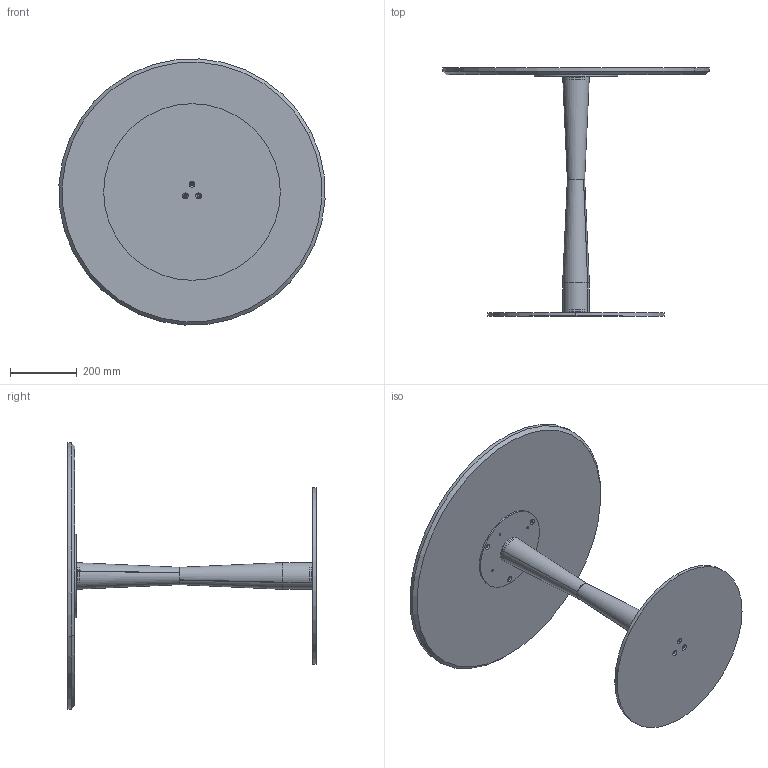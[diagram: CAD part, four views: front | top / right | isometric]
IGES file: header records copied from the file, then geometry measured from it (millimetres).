
Start section: SolidWorks IGES file using analytic representation for surfaces
Global section: file name: Y:\eforma\TECNICO\SOLIDWORKS\E-FORMA\5-TAVOLINI BISTRO\FILÚ\02 parts\FI20M.IGS; native system: SolidWorks 2022; preprocessor: SolidWorks 2022; author: eforma.tech; date: 240808.100053; units: millimetre
Bounding box: 798.83 x 745 x 798.83 mm (x, y, z)
Volume: 12706521.4 mm3; surface area: 1917875.2 mm2
Topology: 7 solids, 7 shells, 120 faces, 278 edges, 168 vertices
Faces by surface type: revolution 106, plane 14
